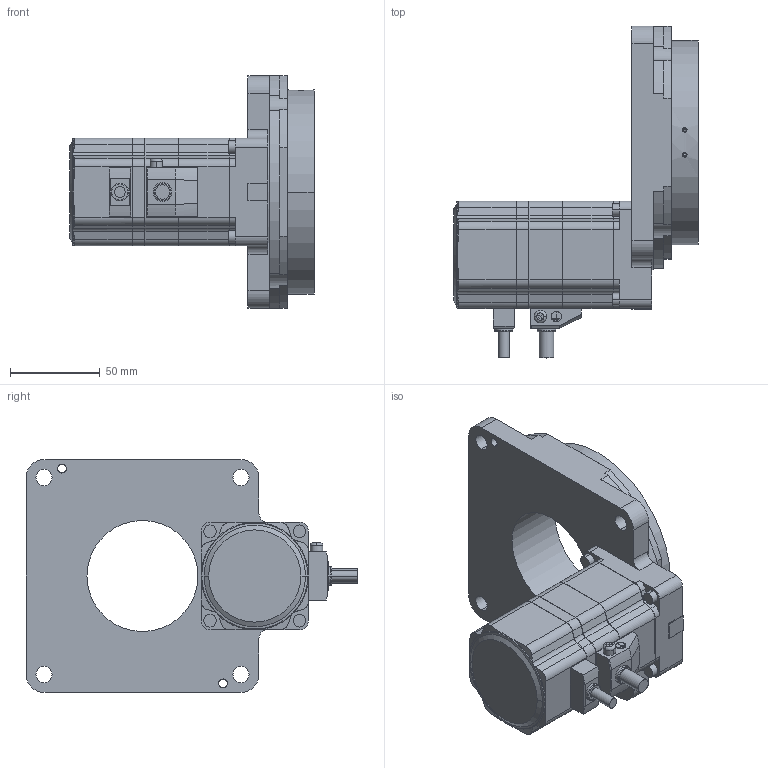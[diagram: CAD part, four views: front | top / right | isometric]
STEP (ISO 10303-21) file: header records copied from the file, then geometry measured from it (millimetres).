
FILE_DESCRIPTION( ( '' ), '1' );
FILE_NAME( 'Z:/14ＣＡＤ/01_CAD業務フォルダ/12_STEP書き出し/05_STEPファイル名の変更作業/02_ファイル名変換の作業場/■手動で書き出し_DG2/DG130R-ARMA-1(1)→D2856.stp', '2013-01-08T00:58:28', ( '' ), ( '' ), ' ', ' ', ' ' );
FILE_SCHEMA( ( 'CONFIG_CONTROL_DESIGN' ) );
Length unit declared in the file: millimetre
Products named in the file (2): 1; 2
Bounding box: 136.5 x 185.3 x 130 mm (x, y, z)
Volume: 717623.6 mm3; surface area: 99600.8 mm2
Topology: 2 solids, 2 shells, 493 faces, 1343 edges, 870 vertices
Faces by surface type: cylinder 216, plane 209, cone 46, torus 22
Entity records: 16083 total; most frequent: CARTESIAN_POINT 3288, DIRECTION 2725, ORIENTED_EDGE 2646, EDGE_CURVE 1323, AXIS2_PLACEMENT_3D 983, VERTEX_POINT 870, LINE 759, VECTOR 759
